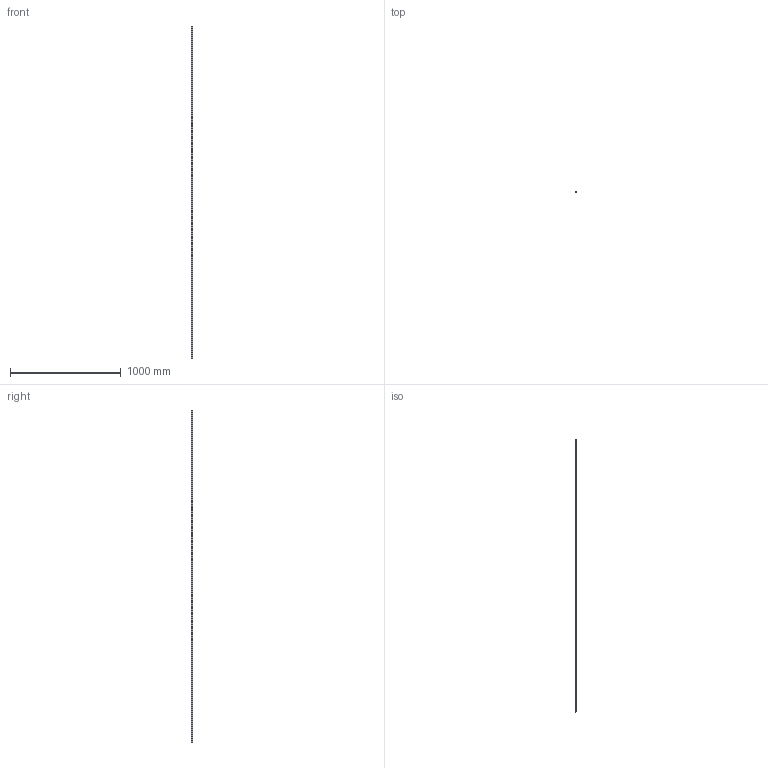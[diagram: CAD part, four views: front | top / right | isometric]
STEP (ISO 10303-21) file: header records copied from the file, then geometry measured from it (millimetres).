
FILE_DESCRIPTION (( 'STEP AP203' ), '1' );
FILE_NAME ('ChannelLine_U_24.STEP', '2024-11-29T09:10:24', ( '' ), ( '' ), 'SwSTEP 2.0', 'SolidWorks 2023', '' );
FILE_SCHEMA (( 'CONFIG_CONTROL_DESIGN' ));
Length unit declared in the file: millimetre
Products named in the file (3): ChannelLine_U_24; 2615201_26.152.99 L=3m; 2614901_26.149.99_3m
Assembly tree (2 placements, depth 2):
  ChannelLine_U_24
    2614901_26.149.99_3m
    2615201_26.152.99 L=3m
Bounding box: 13 x 12 x 3000 mm (x, y, z)
Volume: 166941.1 mm3; surface area: 311931.3 mm2
Topology: 2 solids, 2 shells, 86 faces, 246 edges, 164 vertices
Faces by surface type: cylinder 51, plane 35
Entity records: 3157 total; most frequent: DIRECTION 530, CARTESIAN_POINT 501, ORIENTED_EDGE 492, EDGE_CURVE 246, AXIS2_PLACEMENT_3D 193, VERTEX_POINT 164, LINE 144, VECTOR 144
